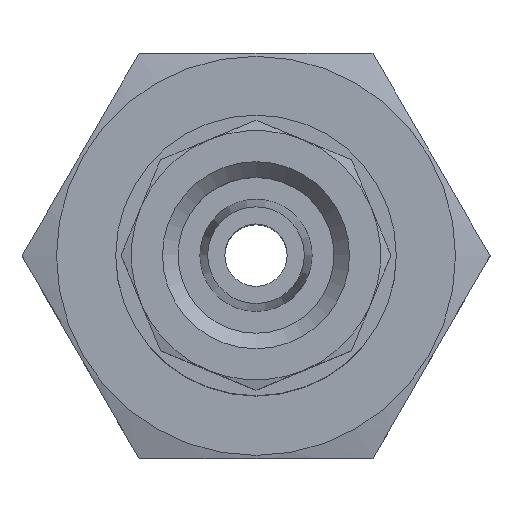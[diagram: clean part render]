
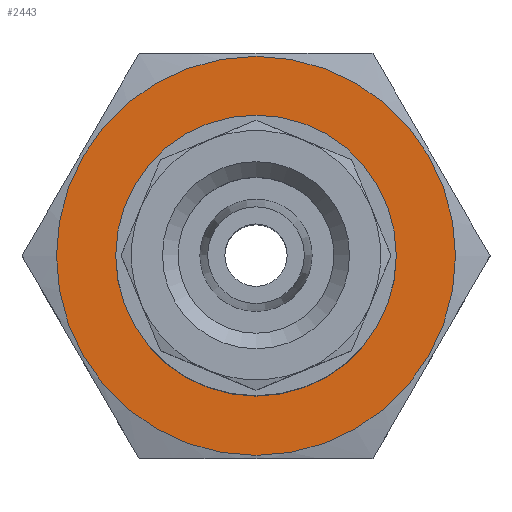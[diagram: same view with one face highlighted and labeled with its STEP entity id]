
A CAD part, top view. The second image highlights one B-rep face of the part: STEP entity #2443.
In plain terms, the highlighted planar face has unit normal (0, 0, 1) as drawn and (0, 1, 0) by its records, which use the part's own axes.
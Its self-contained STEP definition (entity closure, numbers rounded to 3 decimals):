
#663=PLANE('',#2369);
#832=ORIENTED_EDGE('',*,*,#1066,.F.);
#833=ORIENTED_EDGE('',*,*,#1065,.T.);
#911=CIRCLE('',#2368,2.75);
#912=CIRCLE('',#2370,6.4);
#977=VERTEX_POINT('',#2215);
#978=VERTEX_POINT('',#2218);
#1065=EDGE_CURVE('',#977,#977,#911,.T.);
#1066=EDGE_CURVE('',#978,#978,#912,.T.);
#1163=EDGE_LOOP('',(#832));
#1164=EDGE_LOOP('',(#833));
#1261=FACE_BOUND('',#1163,.T.);
#1262=FACE_BOUND('',#1164,.T.);
#1970=DIRECTION('',(0.,-1.,0.));
#1971=DIRECTION('',(0.,0.,2.75));
#1972=DIRECTION('',(0.,1.,0.));
#1973=DIRECTION('',(1.,0.,0.));
#1974=DIRECTION('',(0.,-1.,0.));
#1975=DIRECTION('',(0.,0.,6.4));
#2215=CARTESIAN_POINT('',(135.799,54.777,2.75));
#2216=CARTESIAN_POINT('',(135.799,54.777,0.));
#2217=CARTESIAN_POINT('',(142.199,54.777,0.));
#2218=CARTESIAN_POINT('',(135.799,54.777,6.4));
#2219=CARTESIAN_POINT('',(135.799,54.777,0.));
#2368=AXIS2_PLACEMENT_3D('',#2216,#1970,#1971);
#2369=AXIS2_PLACEMENT_3D('',#2217,#1972,#1973);
#2370=AXIS2_PLACEMENT_3D('',#2219,#1974,#1975);
#2443=ADVANCED_FACE('',(#1261,#1262),#663,.T.);
